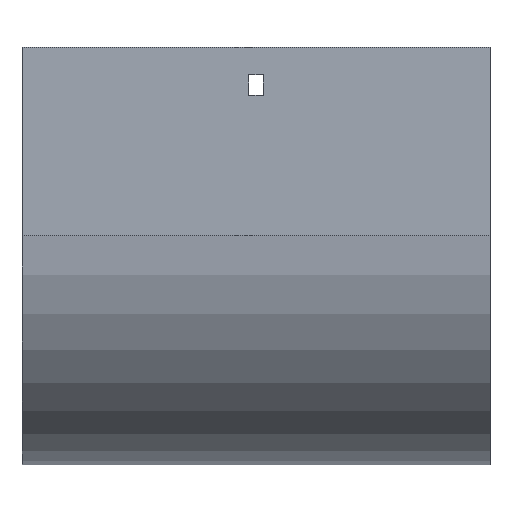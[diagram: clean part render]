
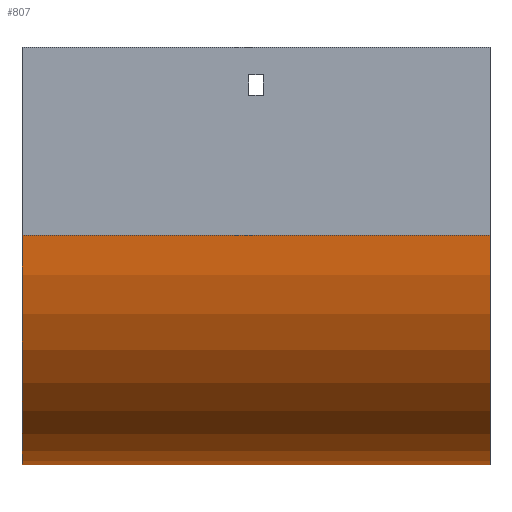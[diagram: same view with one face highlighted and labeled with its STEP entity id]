
A CAD part, front view. The second image highlights one B-rep face of the part: STEP entity #807.
In plain terms, the highlighted cylindrical face has radius 100 mm (diameter 200 mm), a partial arc.
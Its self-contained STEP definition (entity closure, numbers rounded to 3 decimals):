
#46 = ORIENTED_EDGE ( 'NONE', *, *, #118, .F. ) ;
#47 = DIRECTION ( 'NONE',  ( 0., 0., 1. ) ) ;
#86 = CARTESIAN_POINT ( 'NONE',  ( 102., -52., -82. ) ) ;
#118 = EDGE_CURVE ( 'NONE', #345, #1068, #1128, .T. ) ;
#154 = CARTESIAN_POINT ( 'NONE',  ( 102., 48., -182. ) ) ;
#158 = VERTEX_POINT ( 'NONE', #941 ) ;
#179 = CARTESIAN_POINT ( 'NONE',  ( 102., 48., -82. ) ) ;
#199 = ORIENTED_EDGE ( 'NONE', *, *, #588, .T. ) ;
#200 = CARTESIAN_POINT ( 'NONE',  ( -102., -52., -82. ) ) ;
#217 = LINE ( 'NONE', #86, #394 ) ;
#237 = VECTOR ( 'NONE', #1320, 1000. ) ;
#254 = AXIS2_PLACEMENT_3D ( 'NONE', #507, #613, #716 ) ;
#302 = DIRECTION ( 'NONE',  ( 0., 0., 1. ) ) ;
#345 = VERTEX_POINT ( 'NONE', #539 ) ;
#368 = ORIENTED_EDGE ( 'NONE', *, *, #1092, .F. ) ;
#394 = VECTOR ( 'NONE', #652, 1000. ) ;
#414 = CIRCLE ( 'NONE', #254, 100. ) ;
#507 = CARTESIAN_POINT ( 'NONE',  ( -102., 48., -82. ) ) ;
#539 = CARTESIAN_POINT ( 'NONE',  ( 102., 48., -182. ) ) ;
#586 = AXIS2_PLACEMENT_3D ( 'NONE', #179, #714, #47 ) ;
#588 = EDGE_CURVE ( 'NONE', #1129, #1068, #414, .T. ) ;
#613 = DIRECTION ( 'NONE',  ( 1., 0., 0. ) ) ;
#652 = DIRECTION ( 'NONE',  ( -1., 0., 0. ) ) ;
#700 = CIRCLE ( 'NONE', #586, 100. ) ;
#714 = DIRECTION ( 'NONE',  ( 1., 0., 0. ) ) ;
#716 = DIRECTION ( 'NONE',  ( 0., 0., 1. ) ) ;
#730 = AXIS2_PLACEMENT_3D ( 'NONE', #853, #1276, #302 ) ;
#740 = ORIENTED_EDGE ( 'NONE', *, *, #770, .T. ) ;
#770 = EDGE_CURVE ( 'NONE', #158, #1129, #217, .T. ) ;
#805 = CARTESIAN_POINT ( 'NONE',  ( -102., 48., -182. ) ) ;
#807 = ADVANCED_FACE ( 'NONE', ( #845 ), #1184, .T. ) ;
#845 = FACE_OUTER_BOUND ( 'NONE', #1212, .T. ) ;
#853 = CARTESIAN_POINT ( 'NONE',  ( 102., 48., -82. ) ) ;
#941 = CARTESIAN_POINT ( 'NONE',  ( 102., -52., -82. ) ) ;
#1068 = VERTEX_POINT ( 'NONE', #805 ) ;
#1092 = EDGE_CURVE ( 'NONE', #158, #345, #700, .T. ) ;
#1128 = LINE ( 'NONE', #154, #237 ) ;
#1129 = VERTEX_POINT ( 'NONE', #200 ) ;
#1184 = CYLINDRICAL_SURFACE ( 'NONE', #730, 100. ) ;
#1212 = EDGE_LOOP ( 'NONE', ( #199, #46, #368, #740 ) ) ;
#1276 = DIRECTION ( 'NONE',  ( -1., 0., 0. ) ) ;
#1320 = DIRECTION ( 'NONE',  ( -1., 0., 0. ) ) ;
